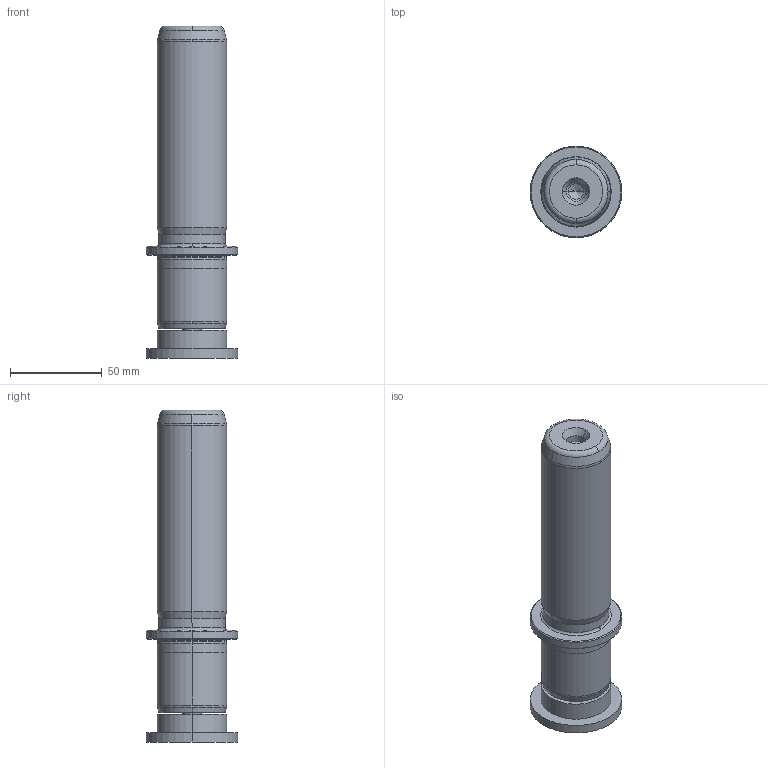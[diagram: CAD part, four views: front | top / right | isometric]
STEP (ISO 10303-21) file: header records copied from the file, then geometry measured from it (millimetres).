
FILE_DESCRIPTION((''),'2;1');
FILE_NAME('P22_038_125.stp','2009-02-16T09:14:46',(''),(''),'Mechanical Desktop 2009','Mechanical Desktop 2009',', , ');
FILE_SCHEMA(('CONFIG_CONTROL_DESIGN'));
Length unit declared in the file: millimetre
Products named in the file (2): Product; blmdl1
Assembly tree (1 placements, depth 2):
  Product
    blmdl1
Bounding box: 50 x 50 x 181 mm (x, y, z)
Volume: 206585 mm3; surface area: 33164.5 mm2
Topology: 3 solids, 3 shells, 99 faces, 237 edges, 149 vertices
Faces by surface type: cylinder 32, cone 28, plane 19, torus 10, bspline 10
Entity records: 3419 total; most frequent: CARTESIAN_POINT 923, DIRECTION 570, ORIENTED_EDGE 466, AXIS2_PLACEMENT_3D 246, EDGE_CURVE 233, CIRCLE 155, VERTEX_POINT 149, EDGE_LOOP 110
